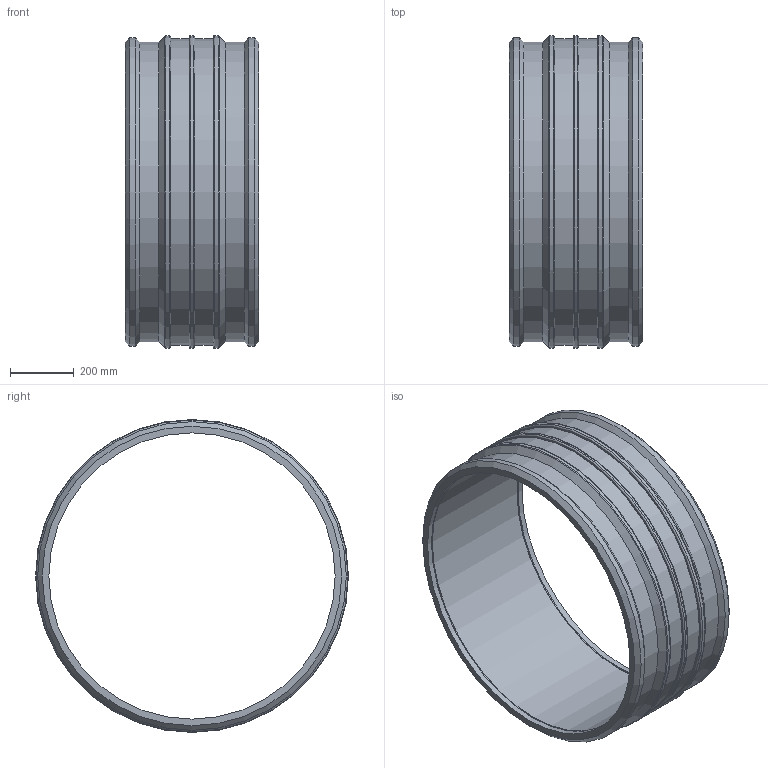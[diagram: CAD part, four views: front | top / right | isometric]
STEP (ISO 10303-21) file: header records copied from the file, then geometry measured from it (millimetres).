
FILE_DESCRIPTION(/* description */ ('PLASSON SUPER LIGHTFIT 900 MM'),/* implementation_level */ '2;1');
FILE_NAME(/* name */ 'C:\Dropbox\KIMPROJECTS-Inventor\99-16-3568-Processing\temp 27.06.19\4601S3\4601S3900.ipt.stp',/* time_stamp */ '2019-06-27T09:40:56+03:00',/* author */ ('KIM'),/* organization */ (''),/* preprocessor_version */ 'ST-DEVELOPER v15.6',/* originating_system */ 'Autodesk Inventor 2015',/* authorisation */ '');
FILE_SCHEMA (('AUTOMOTIVE_DESIGN { 1 0 10303 214 3 1 1 }'));
Length unit declared in the file: millimetre
Products named in the file (1): 4601S3900
Bounding box: 420 x 983 x 983 mm (x, y, z)
Volume: 36000777.1 mm3; surface area: 2794533.2 mm2
Topology: 1 solids, 1 shells, 48 faces, 86 edges, 50 vertices
Faces by surface type: cylinder 20, plane 14, cone 8, torus 6
Full cylindrical faces by diameter (mm): 4 x2, 10 x2, 900 x3, 940.9 x2, 963.34 x2, 970 x2, 983 x3
Entity records: 1054 total; most frequent: CARTESIAN_POINT 215, DIRECTION 190, ORIENTED_EDGE 100, AXIS2_PLACEMENT_3D 95, EDGE_LOOP 92, EDGE_CURVE 50, FACE_OUTER_BOUND 48, ADVANCED_FACE 48
